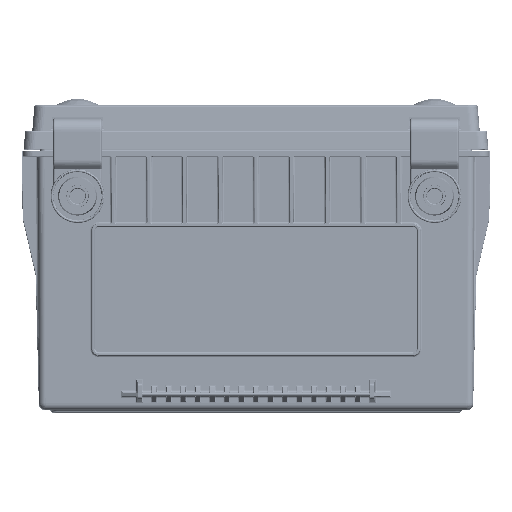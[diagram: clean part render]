
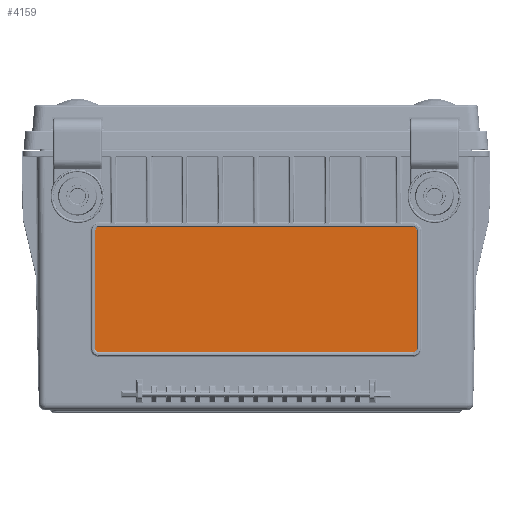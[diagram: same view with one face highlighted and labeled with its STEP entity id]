
A CAD part, top view. The second image highlights one B-rep face of the part: STEP entity #4159.
In plain terms, the highlighted planar face has unit normal (0, -0.009, 1).
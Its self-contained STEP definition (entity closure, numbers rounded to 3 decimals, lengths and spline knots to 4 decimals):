
#4159 = ADVANCED_FACE ( 'NONE', ( #236280 ), #100042, .T. ) ;
#16087 = CARTESIAN_POINT ( 'NONE',  ( 3.6899, -1.6358, 3.1653 ) ) ;
#16408 = VERTEX_POINT ( 'NONE', #278611 ) ;
#19186 = VECTOR ( 'NONE', #275631, 39.3701 ) ;
#20169 = EDGE_CURVE ( 'NONE', #168308, #132452, #96479, .T. ) ;
#26942 =( BOUNDED_CURVE ( )  B_SPLINE_CURVE ( 3, ( #261072, #234138, #76880, #99370 ),
 .UNSPECIFIED., .F., .F. ) 
 B_SPLINE_CURVE_WITH_KNOTS ( ( 4, 4 ),
 ( 2.5539, 4.1242 ),
 .UNSPECIFIED. ) 
 CURVE ( )  GEOMETRIC_REPRESENTATION_ITEM ( )  RATIONAL_B_SPLINE_CURVE ( ( 1., 0.805, 0.805, 1. ) ) 
 REPRESENTATION_ITEM ( '' )  );
#31546 = CARTESIAN_POINT ( 'NONE',  ( -3.6401, -4.536, 3.14 ) ) ;
#38865 = VECTOR ( 'NONE', #62580, 39.3701 ) ;
#52383 = DIRECTION ( 'NONE',  ( 1., 0., 0. ) ) ;
#55469 = CARTESIAN_POINT ( 'NONE',  ( -3.7251, -4.5008, 3.1403 ) ) ;
#62580 = DIRECTION ( 'NONE',  ( 0., 1., 0.009 ) ) ;
#67080 =( BOUNDED_CURVE ( )  B_SPLINE_CURVE ( 3, ( #167625, #76269, #235002, #282880 ),
 .UNSPECIFIED., .F., .F. ) 
 B_SPLINE_CURVE_WITH_KNOTS ( ( 4, 4 ),
 ( 2.0345, 3.6051 ),
 .UNSPECIFIED. ) 
 CURVE ( )  GEOMETRIC_REPRESENTATION_ITEM ( )  RATIONAL_B_SPLINE_CURVE ( ( 1., 0.805, 0.805, 1. ) ) 
 REPRESENTATION_ITEM ( '' )  );
#70923 = CARTESIAN_POINT ( 'NONE',  ( -3.7251, -4.451, 3.1407 ) ) ;
#70975 = EDGE_CURVE ( 'NONE', #251696, #114978, #181445, .T. ) ;
#71888 = CARTESIAN_POINT ( 'NONE',  ( -5.034, -4.536, 3.14 ) ) ;
#74620 = CARTESIAN_POINT ( 'NONE',  ( 3.7251, -1.7207, 3.1645 ) ) ;
#76269 = CARTESIAN_POINT ( 'NONE',  ( 3.6899, -4.536, 3.14 ) ) ;
#76880 = CARTESIAN_POINT ( 'NONE',  ( -3.7251, -1.6709, 3.165 ) ) ;
#77563 = EDGE_CURVE ( 'NONE', #132452, #266560, #248732, .T. ) ;
#83533 = CARTESIAN_POINT ( 'NONE',  ( -3.6401, -4.536, 3.14 ) ) ;
#84001 = ORIENTED_EDGE ( 'NONE', *, *, #276462, .T. ) ;
#89485 = ORIENTED_EDGE ( 'NONE', *, *, #165992, .T. ) ;
#96479 = LINE ( 'NONE', #232751, #178406 ) ;
#98806 = LINE ( 'NONE', #71888, #193069 ) ;
#99370 = CARTESIAN_POINT ( 'NONE',  ( -3.7251, -1.7207, 3.1645 ) ) ;
#100042 = PLANE ( 'NONE',  #121023 ) ;
#103151 = CARTESIAN_POINT ( 'NONE',  ( 3.7251, -1.7211, 3.1645 ) ) ;
#114558 = DIRECTION ( 'NONE',  ( 0., -1., -0.009 ) ) ;
#114978 = VERTEX_POINT ( 'NONE', #285354 ) ;
#116245 = EDGE_LOOP ( 'NONE', ( #89485, #272198, #154692, #250892, #136611, #282417, #263552, #84001 ) ) ;
#117174 = EDGE_CURVE ( 'NONE', #266560, #16408, #98806, .T. ) ;
#121023 = AXIS2_PLACEMENT_3D ( 'NONE', #189880, #170400, #122502 ) ;
#122502 = DIRECTION ( 'NONE',  ( 0., -1., -0.009 ) ) ;
#131812 = EDGE_CURVE ( 'NONE', #114978, #200754, #206791, .T. ) ;
#132452 = VERTEX_POINT ( 'NONE', #70923 ) ;
#136611 = ORIENTED_EDGE ( 'NONE', *, *, #20169, .T. ) ;
#143828 = CARTESIAN_POINT ( 'NONE',  ( 3.7251, -1.7207, 3.1645 ) ) ;
#154692 = ORIENTED_EDGE ( 'NONE', *, *, #131812, .T. ) ;
#165992 = EDGE_CURVE ( 'NONE', #275125, #251696, #218356, .T. ) ;
#167625 = CARTESIAN_POINT ( 'NONE',  ( 3.6401, -4.536, 3.14 ) ) ;
#168308 = VERTEX_POINT ( 'NONE', #211164 ) ;
#170400 = DIRECTION ( 'NONE',  ( 0., -0.009, 1. ) ) ;
#172798 = CARTESIAN_POINT ( 'NONE',  ( -3.6401, -1.6358, 3.1653 ) ) ;
#178406 = VECTOR ( 'NONE', #114558, 39.3701 ) ;
#181445 =( BOUNDED_CURVE ( )  B_SPLINE_CURVE ( 3, ( #74620, #288599, #16087, #239258 ),
 .UNSPECIFIED., .F., .F. ) 
 B_SPLINE_CURVE_WITH_KNOTS ( ( 4, 4 ),
 ( 5.3006, 6.8709 ),
 .UNSPECIFIED. ) 
 CURVE ( )  GEOMETRIC_REPRESENTATION_ITEM ( )  RATIONAL_B_SPLINE_CURVE ( ( 1., 0.805, 0.805, 1. ) ) 
 REPRESENTATION_ITEM ( '' )  );
#181673 = CARTESIAN_POINT ( 'NONE',  ( 3.7251, -4.451, 3.1407 ) ) ;
#189880 = CARTESIAN_POINT ( 'NONE',  ( -5.034, -5.877, 3.1282 ) ) ;
#190243 = EDGE_CURVE ( 'NONE', #200754, #168308, #26942, .T. ) ;
#193069 = VECTOR ( 'NONE', #52383, 39.3701 ) ;
#200754 = VERTEX_POINT ( 'NONE', #172798 ) ;
#206791 = LINE ( 'NONE', #257640, #19186 ) ;
#211164 = CARTESIAN_POINT ( 'NONE',  ( -3.7251, -1.7207, 3.1645 ) ) ;
#218356 = LINE ( 'NONE', #103151, #38865 ) ;
#232751 = CARTESIAN_POINT ( 'NONE',  ( -3.7251, -4.4509, 3.1407 ) ) ;
#233688 = CARTESIAN_POINT ( 'NONE',  ( -3.6899, -4.536, 3.14 ) ) ;
#234138 = CARTESIAN_POINT ( 'NONE',  ( -3.6899, -1.6358, 3.1653 ) ) ;
#235002 = CARTESIAN_POINT ( 'NONE',  ( 3.7251, -4.5008, 3.1403 ) ) ;
#236280 = FACE_OUTER_BOUND ( 'NONE', #116245, .T. ) ;
#239258 = CARTESIAN_POINT ( 'NONE',  ( 3.6401, -1.6358, 3.1653 ) ) ;
#248732 =( BOUNDED_CURVE ( )  B_SPLINE_CURVE ( 3, ( #260632, #55469, #233688, #31546 ),
 .UNSPECIFIED., .F., .F. ) 
 B_SPLINE_CURVE_WITH_KNOTS ( ( 4, 4 ),
 ( 5.8196, 7.3903 ),
 .UNSPECIFIED. ) 
 CURVE ( )  GEOMETRIC_REPRESENTATION_ITEM ( )  RATIONAL_B_SPLINE_CURVE ( ( 1., 0.805, 0.805, 1. ) ) 
 REPRESENTATION_ITEM ( '' )  );
#250892 = ORIENTED_EDGE ( 'NONE', *, *, #190243, .T. ) ;
#251696 = VERTEX_POINT ( 'NONE', #143828 ) ;
#257640 = CARTESIAN_POINT ( 'NONE',  ( -5.034, -1.6358, 3.1653 ) ) ;
#260632 = CARTESIAN_POINT ( 'NONE',  ( -3.7251, -4.451, 3.1407 ) ) ;
#261072 = CARTESIAN_POINT ( 'NONE',  ( -3.6401, -1.6358, 3.1653 ) ) ;
#263552 = ORIENTED_EDGE ( 'NONE', *, *, #117174, .T. ) ;
#266560 = VERTEX_POINT ( 'NONE', #83533 ) ;
#272198 = ORIENTED_EDGE ( 'NONE', *, *, #70975, .T. ) ;
#275125 = VERTEX_POINT ( 'NONE', #181673 ) ;
#275631 = DIRECTION ( 'NONE',  ( -1., 0., 0. ) ) ;
#276462 = EDGE_CURVE ( 'NONE', #16408, #275125, #67080, .T. ) ;
#278611 = CARTESIAN_POINT ( 'NONE',  ( 3.6401, -4.536, 3.14 ) ) ;
#282417 = ORIENTED_EDGE ( 'NONE', *, *, #77563, .T. ) ;
#282880 = CARTESIAN_POINT ( 'NONE',  ( 3.7251, -4.451, 3.1407 ) ) ;
#285354 = CARTESIAN_POINT ( 'NONE',  ( 3.6401, -1.6358, 3.1653 ) ) ;
#288599 = CARTESIAN_POINT ( 'NONE',  ( 3.7251, -1.6709, 3.165 ) ) ;
